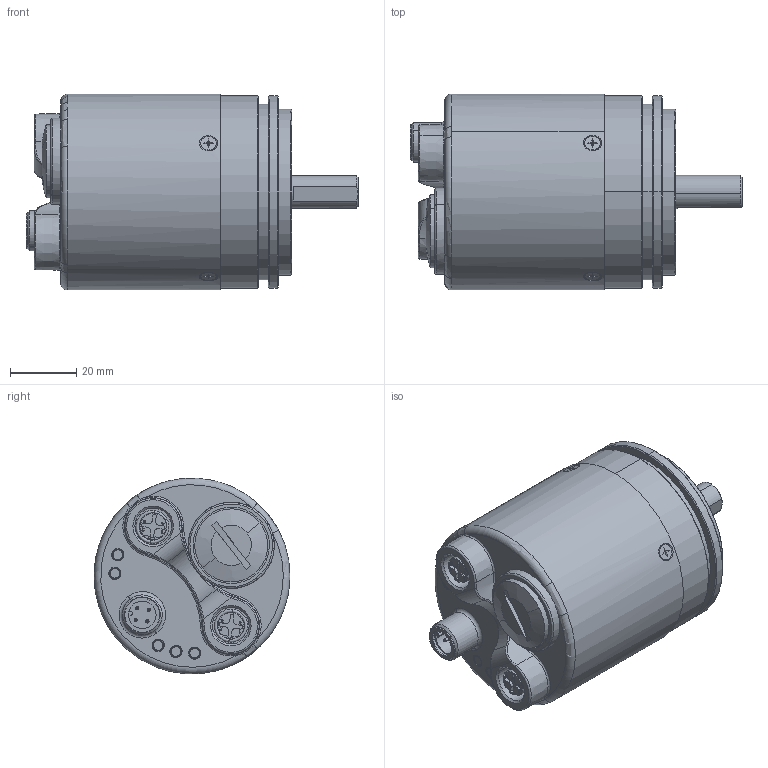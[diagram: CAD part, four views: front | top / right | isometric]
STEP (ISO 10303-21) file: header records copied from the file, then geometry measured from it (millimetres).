
FILE_DESCRIPTION (( 'STEP AP203' ), '1' );
FILE_NAME ('8.F5868.22AN.A222.STEP', '2016-01-28T11:08:31', ( 'LauferA' ), ( 'Microsoft' ), 'SwSTEP 2.0', 'SolidWorks 2013', '' );
FILE_SCHEMA (( 'CONFIG_CONTROL_DESIGN' ));
Length unit declared in the file: millimetre
Products named in the file (1): 8.F5868.22AN.A222
Bounding box: 100 x 59 x 58.96 mm (x, y, z)
Volume: 91461.1 mm3; surface area: 52242.4 mm2
Topology: 19 solids, 23 shells, 2806 faces, 7267 edges, 4475 vertices
Faces by surface type: plane 1021, cylinder 1003, bspline 285, cone 272, torus 189, sphere 36
Entity records: 92895 total; most frequent: CARTESIAN_POINT 25392, ORIENTED_EDGE 14368, DIRECTION 14146, EDGE_CURVE 7184, AXIS2_PLACEMENT_3D 5227, VERTEX_POINT 4475, VECTOR 3692, LINE 3692
